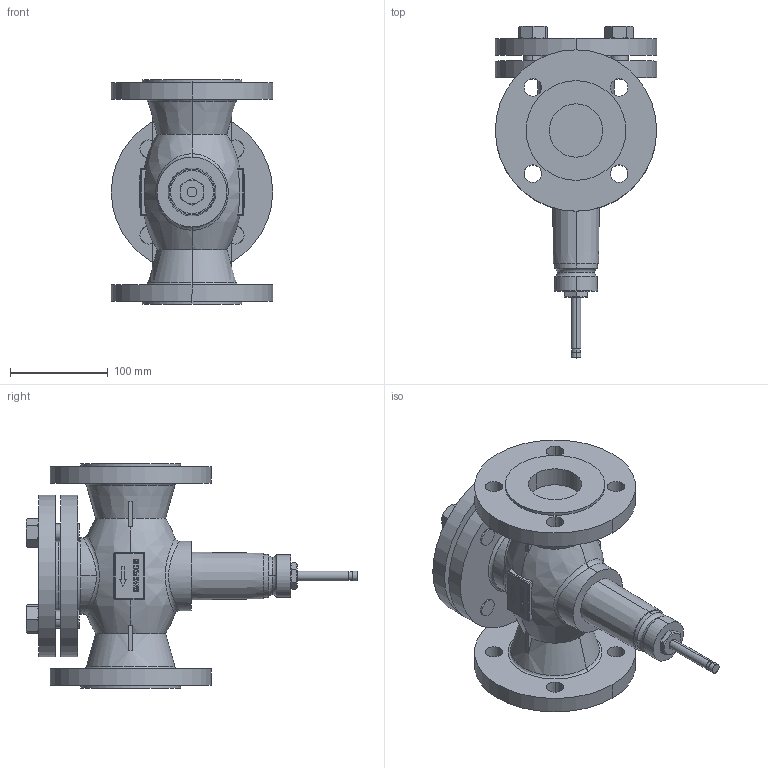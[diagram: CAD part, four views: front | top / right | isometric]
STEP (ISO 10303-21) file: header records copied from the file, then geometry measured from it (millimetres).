
FILE_DESCRIPTION((''),'2;1');
FILE_NAME('000193.stp','2006-09-29T17:19:35',(''),(''),'Mechanical Desktop 2006','Mechanical Desktop 2006',', , ');
FILE_SCHEMA(('AUTOMOTIVE_DESIGN { 1 2 10303 214 0 1 1 1 }'));
Length unit declared in the file: millimetre
Products named in the file (1): Product
Bounding box: 165 x 339.5 x 230 mm (x, y, z)
Volume: 2909606.7 mm3; surface area: 340441.6 mm2
Topology: 34 solids, 34 shells, 595 faces, 1529 edges, 1001 vertices
Faces by surface type: cylinder 264, plane 225, bspline 86, cone 8, sphere 8, torus 4
Entity records: 19857 total; most frequent: CARTESIAN_POINT 5439, ORIENTED_EDGE 3042, DIRECTION 2964, EDGE_CURVE 1521, AXIS2_PLACEMENT_3D 1091, VERTEX_POINT 1001, VECTOR 782, LINE 782
